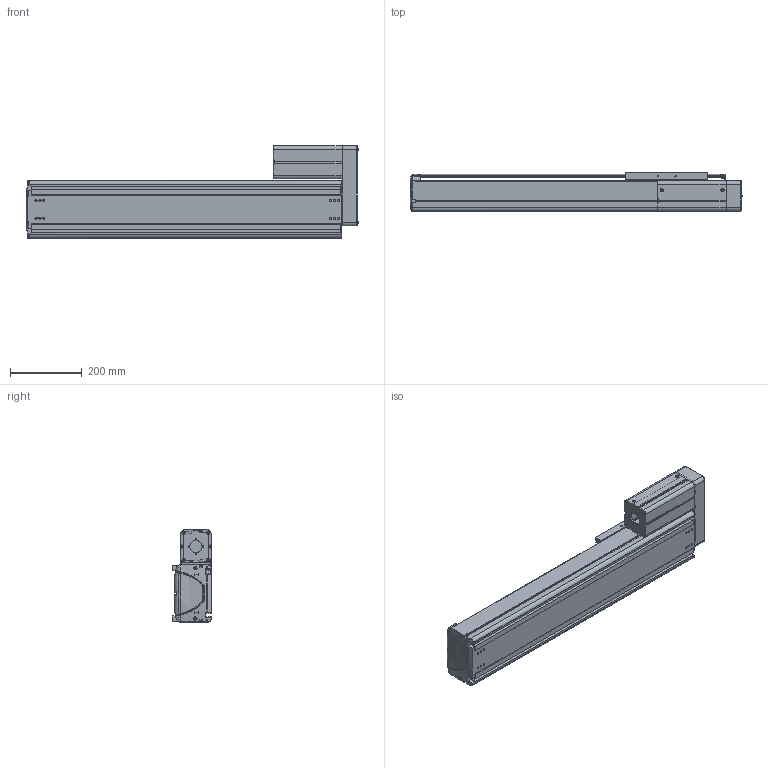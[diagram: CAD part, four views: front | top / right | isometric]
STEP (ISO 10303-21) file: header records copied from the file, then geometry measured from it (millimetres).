
FILE_DESCRIPTION((''),'2;1');
FILE_NAME('BE50F-UR-L_B-55_IGS_PRT','2017-06-18T',(' '),(''),'PRO/ENGINEER BY PARAMETRIC TECHNOLOGY CORPORATION, 2015030','PRO/ENGINEER BY PARAMETRIC TECHNOLOGY CORPORATION, 2015030','');
FILE_SCHEMA(('CONFIG_CONTROL_DESIGN'));
Length unit declared in the file: millimetre
Products named in the file (1): BE50F-UR-L_B-55_IGS_PRT
Bounding box: 925.88 x 110 x 257 mm (x, y, z)
Volume: 4714161.4 mm3; surface area: 1727897.4 mm2
Topology: 2 solids, 123 shells, 2191 faces, 5943 edges, 3873 vertices
Faces by surface type: plane 1008, cylinder 919, cone 125, torus 59, bspline 48, sphere 32
Entity records: 72283 total; most frequent: CARTESIAN_POINT 16395, DIRECTION 11738, ORIENTED_EDGE 11340, EDGE_CURVE 5898, AXIS2_PLACEMENT_3D 4181, VERTEX_POINT 3872, VECTOR 3376, LINE 3376
